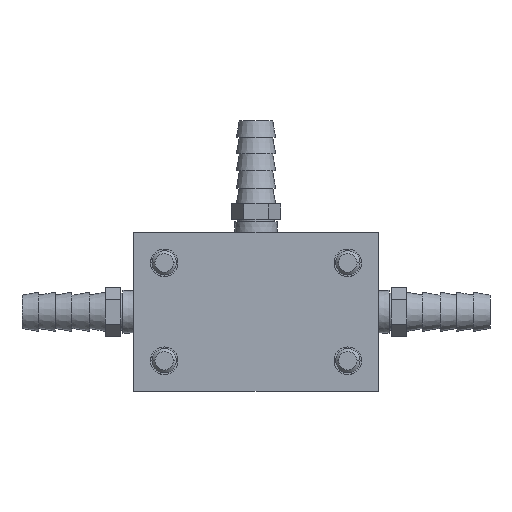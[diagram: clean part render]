
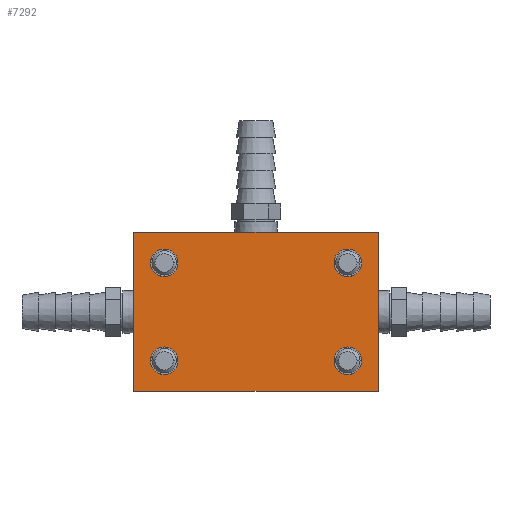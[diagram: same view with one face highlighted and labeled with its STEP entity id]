
A CAD part, left-side view. The second image highlights one B-rep face of the part: STEP entity #7292.
In plain terms, the highlighted planar face has unit normal (-1, 0, 0).
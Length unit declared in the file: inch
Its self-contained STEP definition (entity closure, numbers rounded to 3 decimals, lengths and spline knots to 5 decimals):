
#7030=CARTESIAN_POINT('',(-3.25,-0.9375,-0.5));
#7031=DIRECTION('',(1.,0.,0.));
#7032=DIRECTION('',(0.,-1.,0.));
#7033=AXIS2_PLACEMENT_3D('',#7030,#7031,#7032);
#7035=CARTESIAN_POINT('',(-3.25,-0.9375,-0.5));
#7036=DIRECTION('',(1.,0.,0.));
#7037=DIRECTION('',(0.,1.,0.));
#7038=AXIS2_PLACEMENT_3D('',#7035,#7036,#7037);
#7040=CARTESIAN_POINT('',(-3.25,0.9375,-0.5));
#7041=DIRECTION('',(1.,0.,0.));
#7042=DIRECTION('',(0.,-1.,0.));
#7043=AXIS2_PLACEMENT_3D('',#7040,#7041,#7042);
#7045=CARTESIAN_POINT('',(-3.25,0.9375,-0.5));
#7046=DIRECTION('',(1.,0.,0.));
#7047=DIRECTION('',(0.,1.,0.));
#7048=AXIS2_PLACEMENT_3D('',#7045,#7046,#7047);
#7050=CARTESIAN_POINT('',(-3.25,0.9375,0.5));
#7051=DIRECTION('',(1.,0.,0.));
#7052=DIRECTION('',(0.,-1.,0.));
#7053=AXIS2_PLACEMENT_3D('',#7050,#7051,#7052);
#7055=CARTESIAN_POINT('',(-3.25,0.9375,0.5));
#7056=DIRECTION('',(1.,0.,0.));
#7057=DIRECTION('',(0.,1.,0.));
#7058=AXIS2_PLACEMENT_3D('',#7055,#7056,#7057);
#7060=CARTESIAN_POINT('',(-3.25,-0.9375,0.5));
#7061=DIRECTION('',(1.,0.,0.));
#7062=DIRECTION('',(0.,-1.,0.));
#7063=AXIS2_PLACEMENT_3D('',#7060,#7061,#7062);
#7065=CARTESIAN_POINT('',(-3.25,-0.9375,0.5));
#7066=DIRECTION('',(1.,0.,0.));
#7067=DIRECTION('',(0.,1.,0.));
#7068=AXIS2_PLACEMENT_3D('',#7065,#7066,#7067);
#7162=DIRECTION('',(0.,0.,-1.));
#7163=VECTOR('',#7162,1.625);
#7164=CARTESIAN_POINT('',(-3.25,-1.25,0.8125));
#7165=LINE('',#7164,#7163);
#7170=DIRECTION('',(0.,1.,0.));
#7171=VECTOR('',#7170,2.5);
#7172=CARTESIAN_POINT('',(-3.25,-1.25,-0.8125));
#7173=LINE('',#7172,#7171);
#7174=DIRECTION('',(0.,0.,1.));
#7175=VECTOR('',#7174,1.625);
#7176=CARTESIAN_POINT('',(-3.25,1.25,-0.8125));
#7177=LINE('',#7176,#7175);
#7182=DIRECTION('',(0.,-1.,0.));
#7183=VECTOR('',#7182,2.5);
#7184=CARTESIAN_POINT('',(-3.25,1.25,0.8125));
#7185=LINE('',#7184,#7183);
#7194=CARTESIAN_POINT('',(-3.25,-1.25,-0.8125));
#7195=CARTESIAN_POINT('',(-3.25,1.25,-0.8125));
#7196=VERTEX_POINT('',#7194);
#7197=VERTEX_POINT('',#7195);
#7200=CARTESIAN_POINT('',(-3.25,-1.25,0.8125));
#7201=VERTEX_POINT('',#7200);
#7202=CARTESIAN_POINT('',(-3.25,1.25,0.8125));
#7203=VERTEX_POINT('',#7202);
#7206=CARTESIAN_POINT('',(-3.25,1.07813,0.5));
#7208=VERTEX_POINT('',#7206);
#7210=CARTESIAN_POINT('',(-3.25,0.79688,0.5));
#7212=VERTEX_POINT('',#7210);
#7214=CARTESIAN_POINT('',(-3.25,-0.79688,0.5));
#7216=VERTEX_POINT('',#7214);
#7218=CARTESIAN_POINT('',(-3.25,-1.07813,0.5));
#7220=VERTEX_POINT('',#7218);
#7222=CARTESIAN_POINT('',(-3.25,1.07813,-0.5));
#7224=VERTEX_POINT('',#7222);
#7226=CARTESIAN_POINT('',(-3.25,0.79688,-0.5));
#7228=VERTEX_POINT('',#7226);
#7230=CARTESIAN_POINT('',(-3.25,-0.79688,-0.5));
#7232=VERTEX_POINT('',#7230);
#7234=CARTESIAN_POINT('',(-3.25,-1.07813,-0.5));
#7236=VERTEX_POINT('',#7234);
#7254=CARTESIAN_POINT('',(-3.25,0.,0.));
#7255=DIRECTION('',(1.,0.,0.));
#7256=DIRECTION('',(0.,-1.,0.));
#7257=AXIS2_PLACEMENT_3D('',#7254,#7255,#7256);
#7258=PLANE('',#7257);
#7260=ORIENTED_EDGE('',*,*,#7259,.T.);
#7262=ORIENTED_EDGE('',*,*,#7261,.T.);
#7264=ORIENTED_EDGE('',*,*,#7263,.T.);
#7266=ORIENTED_EDGE('',*,*,#7265,.T.);
#7267=EDGE_LOOP('',(#7260,#7262,#7264,#7266));
#7268=FACE_OUTER_BOUND('',#7267,.F.);
#7270=ORIENTED_EDGE('',*,*,#7269,.F.);
#7272=ORIENTED_EDGE('',*,*,#7271,.F.);
#7273=EDGE_LOOP('',(#7270,#7272));
#7274=FACE_BOUND('',#7273,.F.);
#7275=ORIENTED_EDGE('',*,*,#7243,.F.);
#7277=ORIENTED_EDGE('',*,*,#7276,.F.);
#7278=EDGE_LOOP('',(#7275,#7277));
#7279=FACE_BOUND('',#7278,.F.);
#7281=ORIENTED_EDGE('',*,*,#7280,.F.);
#7283=ORIENTED_EDGE('',*,*,#7282,.F.);
#7284=EDGE_LOOP('',(#7281,#7283));
#7285=FACE_BOUND('',#7284,.F.);
#7287=ORIENTED_EDGE('',*,*,#7286,.F.);
#7289=ORIENTED_EDGE('',*,*,#7288,.F.);
#7290=EDGE_LOOP('',(#7287,#7289));
#7291=FACE_BOUND('',#7290,.F.);
#7034=CIRCLE('',#7033,0.14063);
#7039=CIRCLE('',#7038,0.14063);
#7044=CIRCLE('',#7043,0.14063);
#7049=CIRCLE('',#7048,0.14063);
#7054=CIRCLE('',#7053,0.14063);
#7059=CIRCLE('',#7058,0.14063);
#7064=CIRCLE('',#7063,0.14063);
#7069=CIRCLE('',#7068,0.14063);
#7243=EDGE_CURVE('',#7212,#7208,#7054,.T.);
#7259=EDGE_CURVE('',#7196,#7197,#7173,.T.);
#7261=EDGE_CURVE('',#7197,#7203,#7177,.T.);
#7263=EDGE_CURVE('',#7203,#7201,#7185,.T.);
#7265=EDGE_CURVE('',#7201,#7196,#7165,.T.);
#7269=EDGE_CURVE('',#7228,#7224,#7044,.T.);
#7271=EDGE_CURVE('',#7224,#7228,#7049,.T.);
#7276=EDGE_CURVE('',#7208,#7212,#7059,.T.);
#7280=EDGE_CURVE('',#7220,#7216,#7064,.T.);
#7282=EDGE_CURVE('',#7216,#7220,#7069,.T.);
#7286=EDGE_CURVE('',#7236,#7232,#7034,.T.);
#7288=EDGE_CURVE('',#7232,#7236,#7039,.T.);
#7292=ADVANCED_FACE('',(#7268,#7274,#7279,#7285,#7291),#7258,.F.);
